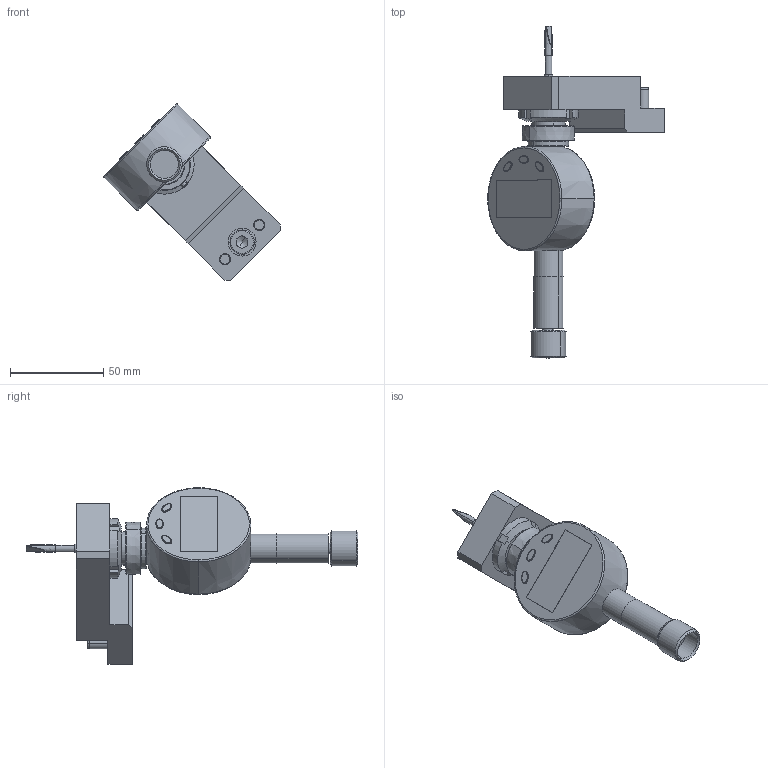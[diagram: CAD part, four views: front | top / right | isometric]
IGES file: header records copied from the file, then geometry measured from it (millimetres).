
Start section: START RECORD GO HERE.
Global section: file name: S0003_Messuhr_steckbar_gekroeft_Schwert_AllCATPart.igs; native system: IBM CATIA IGES - CATIA Version 5 Release 19 ; preprocessor: CATIA Version 5 Release 19 ; author: Administrator; organization: SCHROPPFSC; date: 20101107.184508; units: millimetre
Bounding box: 94.79 x 178.2 x 94.79 mm (x, y, z)
Surface area: 45763.8 mm2 (no closed solid volume)
Topology: 0 solids, 0 shells, 321 faces, 1412 edges, 1410 vertices
Faces by surface type: revolution 196, plane 93, bspline 26, extrusion 6
